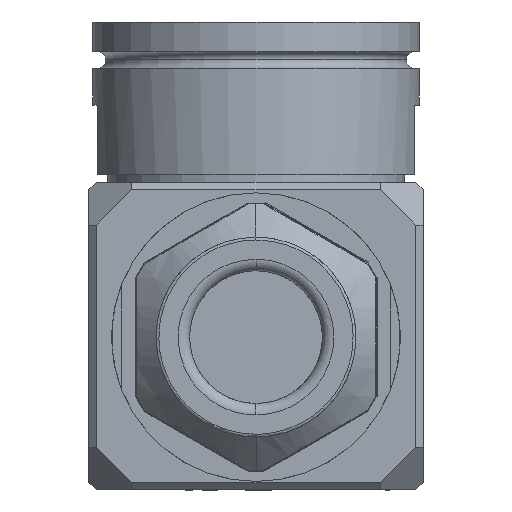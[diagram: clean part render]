
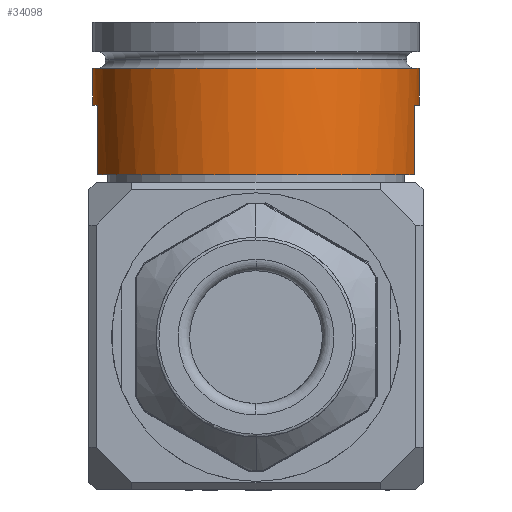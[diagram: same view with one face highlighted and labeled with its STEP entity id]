
A CAD part, front view. The second image highlights one B-rep face of the part: STEP entity #34098.
In plain terms, the highlighted cylindrical face has radius 22.441 mm (diameter 44.882 mm), a partial arc.
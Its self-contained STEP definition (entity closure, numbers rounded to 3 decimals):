
#508 = EDGE_CURVE ( 'NONE', #51845, #36890, #27124, .T. ) ;
#1044 = CARTESIAN_POINT ( 'NONE',  ( 22.441, 0., -3.124 ) ) ;
#2155 = CIRCLE ( 'NONE', #62408, 22.441 ) ;
#2409 = EDGE_CURVE ( 'NONE', #35009, #12389, #40921, .T. ) ;
#3119 = DIRECTION ( 'NONE',  ( 1., 0., 0. ) ) ;
#5011 = CARTESIAN_POINT ( 'NONE',  ( 21.755, -5.505, -12.649 ) ) ;
#7903 = DIRECTION ( 'NONE',  ( 0., 0., -1. ) ) ;
#9185 = ORIENTED_EDGE ( 'NONE', *, *, #58916, .F. ) ;
#9284 = CYLINDRICAL_SURFACE ( 'NONE', #35472, 22.441 ) ;
#10467 = DIRECTION ( 'NONE',  ( 1., 0., 0. ) ) ;
#10733 = CIRCLE ( 'NONE', #21795, 22.441 ) ;
#12389 = VERTEX_POINT ( 'NONE', #1044 ) ;
#13146 = ORIENTED_EDGE ( 'NONE', *, *, #63999, .T. ) ;
#15898 = ORIENTED_EDGE ( 'NONE', *, *, #36874, .F. ) ;
#16840 = AXIS2_PLACEMENT_3D ( 'NONE', #32643, #60959, #43597 ) ;
#17775 = CARTESIAN_POINT ( 'NONE',  ( -21.755, -5.505, -3.124 ) ) ;
#19150 = CARTESIAN_POINT ( 'NONE',  ( 21.755, -5.505, -3.124 ) ) ;
#21030 = CARTESIAN_POINT ( 'NONE',  ( 22.441, 0., 8.306 ) ) ;
#21795 = AXIS2_PLACEMENT_3D ( 'NONE', #22344, #36403, #57318 ) ;
#22344 = CARTESIAN_POINT ( 'NONE',  ( 0., 0., -3.124 ) ) ;
#22712 = ORIENTED_EDGE ( 'NONE', *, *, #2409, .F. ) ;
#24007 = VECTOR ( 'NONE', #60251, 1000. ) ;
#25602 = CARTESIAN_POINT ( 'NONE',  ( -21.755, -5.505, -3.124 ) ) ;
#26225 = DIRECTION ( 'NONE',  ( 0., 0., -1. ) ) ;
#27124 = LINE ( 'NONE', #28477, #31666 ) ;
#28477 = CARTESIAN_POINT ( 'NONE',  ( -22.441, 0., 8.306 ) ) ;
#30877 = CARTESIAN_POINT ( 'NONE',  ( -21.755, -5.505, -12.649 ) ) ;
#30900 = EDGE_CURVE ( 'NONE', #58246, #31328, #65766, .T. ) ;
#31328 = VERTEX_POINT ( 'NONE', #5011 ) ;
#31386 = CARTESIAN_POINT ( 'NONE',  ( 0., 0., 1.956 ) ) ;
#31666 = VECTOR ( 'NONE', #64473, 1000. ) ;
#32080 = VECTOR ( 'NONE', #54140, 1000. ) ;
#32643 = CARTESIAN_POINT ( 'NONE',  ( 0., 0., -3.124 ) ) ;
#33447 = ORIENTED_EDGE ( 'NONE', *, *, #59636, .F. ) ;
#34098 = ADVANCED_FACE ( 'NONE', ( #50083 ), #9284, .T. ) ;
#35009 = VERTEX_POINT ( 'NONE', #62905 ) ;
#35472 = AXIS2_PLACEMENT_3D ( 'NONE', #60703, #45286, #3119 ) ;
#36403 = DIRECTION ( 'NONE',  ( 0., 0., -1. ) ) ;
#36874 = EDGE_CURVE ( 'NONE', #56197, #36890, #50750, .T. ) ;
#36890 = VERTEX_POINT ( 'NONE', #53888 ) ;
#39358 = AXIS2_PLACEMENT_3D ( 'NONE', #31386, #26225, #10467 ) ;
#40921 = LINE ( 'NONE', #21030, #52549 ) ;
#41926 = DIRECTION ( 'NONE',  ( 0., 0., -1. ) ) ;
#43597 = DIRECTION ( 'NONE',  ( -1., 0., 0. ) ) ;
#44895 = CARTESIAN_POINT ( 'NONE',  ( 21.755, -5.505, -3.124 ) ) ;
#45286 = DIRECTION ( 'NONE',  ( 0., 0., -1. ) ) ;
#48153 = ORIENTED_EDGE ( 'NONE', *, *, #61493, .T. ) ;
#50083 = FACE_OUTER_BOUND ( 'NONE', #54716, .T. ) ;
#50750 = CIRCLE ( 'NONE', #16840, 22.441 ) ;
#51845 = VERTEX_POINT ( 'NONE', #58702 ) ;
#52549 = VECTOR ( 'NONE', #41926, 1000. ) ;
#53888 = CARTESIAN_POINT ( 'NONE',  ( -22.441, 0., -3.124 ) ) ;
#54140 = DIRECTION ( 'NONE',  ( 0., 0., -1. ) ) ;
#54716 = EDGE_LOOP ( 'NONE', ( #13146, #59089, #15898, #48153, #9185, #61542, #33447, #22712 ) ) ;
#55107 = LINE ( 'NONE', #17775, #24007 ) ;
#56197 = VERTEX_POINT ( 'NONE', #25602 ) ;
#57318 = DIRECTION ( 'NONE',  ( 1., 0., 0. ) ) ;
#57556 = DIRECTION ( 'NONE',  ( 1., 0., 0. ) ) ;
#58246 = VERTEX_POINT ( 'NONE', #44895 ) ;
#58702 = CARTESIAN_POINT ( 'NONE',  ( -22.441, 0., 1.956 ) ) ;
#58916 = EDGE_CURVE ( 'NONE', #31328, #58943, #2155, .T. ) ;
#58943 = VERTEX_POINT ( 'NONE', #30877 ) ;
#59089 = ORIENTED_EDGE ( 'NONE', *, *, #508, .T. ) ;
#59636 = EDGE_CURVE ( 'NONE', #12389, #58246, #10733, .T. ) ;
#60251 = DIRECTION ( 'NONE',  ( 0., 0., -1. ) ) ;
#60703 = CARTESIAN_POINT ( 'NONE',  ( 0., 0., 8.306 ) ) ;
#60959 = DIRECTION ( 'NONE',  ( 0., 0., -1. ) ) ;
#61493 = EDGE_CURVE ( 'NONE', #56197, #58943, #55107, .T. ) ;
#61542 = ORIENTED_EDGE ( 'NONE', *, *, #30900, .F. ) ;
#62408 = AXIS2_PLACEMENT_3D ( 'NONE', #66159, #7903, #57556 ) ;
#62905 = CARTESIAN_POINT ( 'NONE',  ( 22.441, 0., 1.956 ) ) ;
#63999 = EDGE_CURVE ( 'NONE', #35009, #51845, #64519, .T. ) ;
#64473 = DIRECTION ( 'NONE',  ( 0., 0., -1. ) ) ;
#64519 = CIRCLE ( 'NONE', #39358, 22.441 ) ;
#65766 = LINE ( 'NONE', #19150, #32080 ) ;
#66159 = CARTESIAN_POINT ( 'NONE',  ( 0., 0., -12.649 ) ) ;
